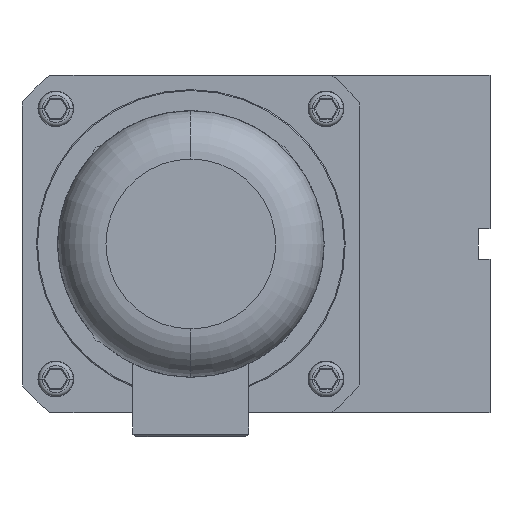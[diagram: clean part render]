
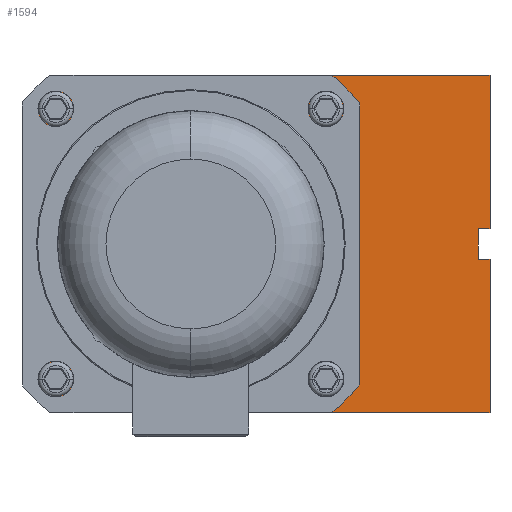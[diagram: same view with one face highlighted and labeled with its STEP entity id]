
A CAD part, front view. The second image highlights one B-rep face of the part: STEP entity #1594.
In plain terms, the highlighted planar face has unit normal (0, -1, 0).
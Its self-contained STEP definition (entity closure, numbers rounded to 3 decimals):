
#2=CARTESIAN_POINT('',(-70.,0.,-70.));
#3=DIRECTION('',(0.,-1.,0.));
#4=DIRECTION('',(0.,0.,1.));
#5=AXIS2_PLACEMENT_3D('',#2,#3,#4);
#7=CARTESIAN_POINT('',(-70.,0.,-70.));
#8=DIRECTION('',(0.,-1.,0.));
#9=DIRECTION('',(0.,0.,-1.));
#10=AXIS2_PLACEMENT_3D('',#7,#8,#9);
#12=CARTESIAN_POINT('',(-70.,0.,70.));
#13=DIRECTION('',(0.,-1.,0.));
#14=DIRECTION('',(0.,0.,1.));
#15=AXIS2_PLACEMENT_3D('',#12,#13,#14);
#17=CARTESIAN_POINT('',(-70.,0.,70.));
#18=DIRECTION('',(0.,-1.,0.));
#19=DIRECTION('',(0.,0.,-1.));
#20=AXIS2_PLACEMENT_3D('',#17,#18,#19);
#22=CARTESIAN_POINT('',(70.,0.,-70.));
#23=DIRECTION('',(0.,-1.,0.));
#24=DIRECTION('',(0.,0.,1.));
#25=AXIS2_PLACEMENT_3D('',#22,#23,#24);
#27=CARTESIAN_POINT('',(70.,0.,-70.));
#28=DIRECTION('',(0.,-1.,0.));
#29=DIRECTION('',(0.,0.,-1.));
#30=AXIS2_PLACEMENT_3D('',#27,#28,#29);
#32=CARTESIAN_POINT('',(70.,0.,70.));
#33=DIRECTION('',(0.,-1.,0.));
#34=DIRECTION('',(0.,0.,1.));
#35=AXIS2_PLACEMENT_3D('',#32,#33,#34);
#37=CARTESIAN_POINT('',(70.,0.,70.));
#38=DIRECTION('',(0.,-1.,0.));
#39=DIRECTION('',(0.,0.,-1.));
#40=AXIS2_PLACEMENT_3D('',#37,#38,#39);
#42=CARTESIAN_POINT('',(0.,0.,0.));
#43=DIRECTION('',(0.,-1.,0.));
#44=DIRECTION('',(1.,0.,0.));
#45=AXIS2_PLACEMENT_3D('',#42,#43,#44);
#47=DIRECTION('',(0.,0.,1.));
#48=VECTOR('',#47,63.267);
#49=CARTESIAN_POINT('',(-85.,0.,9.233));
#50=LINE('',#49,#48);
#51=DIRECTION('',(-0.707,0.,-0.707));
#52=VECTOR('',#51,21.213);
#53=CARTESIAN_POINT('',(-70.,0.,87.5));
#54=LINE('',#53,#52);
#55=DIRECTION('',(1.,0.,0.));
#56=VECTOR('',#55,225.);
#57=CARTESIAN_POINT('',(-70.,0.,87.5));
#58=LINE('',#57,#56);
#59=DIRECTION('',(0.,0.,-1.));
#60=VECTOR('',#59,79.5);
#61=CARTESIAN_POINT('',(155.,0.,87.5));
#62=LINE('',#61,#60);
#63=DIRECTION('',(-1.,0.,0.));
#64=VECTOR('',#63,6.);
#65=CARTESIAN_POINT('',(155.,0.,8.));
#66=LINE('',#65,#64);
#67=DIRECTION('',(0.,0.,1.));
#68=VECTOR('',#67,16.);
#69=CARTESIAN_POINT('',(149.,0.,-8.));
#70=LINE('',#69,#68);
#71=DIRECTION('',(-1.,0.,0.));
#72=VECTOR('',#71,6.);
#73=CARTESIAN_POINT('',(155.,0.,-8.));
#74=LINE('',#73,#72);
#75=DIRECTION('',(0.,0.,-1.));
#76=VECTOR('',#75,79.5);
#77=CARTESIAN_POINT('',(155.,0.,-8.));
#78=LINE('',#77,#76);
#79=DIRECTION('',(-1.,0.,0.));
#80=VECTOR('',#79,225.);
#81=CARTESIAN_POINT('',(155.,0.,-87.5));
#82=LINE('',#81,#80);
#83=DIRECTION('',(0.707,0.,-0.707));
#84=VECTOR('',#83,21.213);
#85=CARTESIAN_POINT('',(-85.,0.,-72.5));
#86=LINE('',#85,#84);
#87=DIRECTION('',(0.,0.,1.));
#88=VECTOR('',#87,63.267);
#89=CARTESIAN_POINT('',(-85.,0.,-72.5));
#90=LINE('',#89,#88);
#91=CARTESIAN_POINT('',(0.,0.,0.));
#92=DIRECTION('',(0.,-1.,0.));
#93=DIRECTION('',(-0.994,0.,-0.108));
#94=AXIS2_PLACEMENT_3D('',#91,#92,#93);
#1259=CARTESIAN_POINT('',(155.,0.,-87.5));
#1260=VERTEX_POINT('',#1259);
#1261=CARTESIAN_POINT('',(155.,0.,87.5));
#1262=VERTEX_POINT('',#1261);
#1263=CARTESIAN_POINT('',(-85.,0.,-72.5));
#1264=CARTESIAN_POINT('',(-70.,0.,-87.5));
#1265=VERTEX_POINT('',#1263);
#1266=VERTEX_POINT('',#1264);
#1271=CARTESIAN_POINT('',(-70.,0.,87.5));
#1272=CARTESIAN_POINT('',(-85.,0.,72.5));
#1273=VERTEX_POINT('',#1271);
#1274=VERTEX_POINT('',#1272);
#1295=CARTESIAN_POINT('',(149.,0.,-8.));
#1296=CARTESIAN_POINT('',(149.,0.,8.));
#1297=VERTEX_POINT('',#1295);
#1298=VERTEX_POINT('',#1296);
#1299=CARTESIAN_POINT('',(155.,0.,-8.));
#1300=VERTEX_POINT('',#1299);
#1301=CARTESIAN_POINT('',(155.,0.,8.));
#1302=VERTEX_POINT('',#1301);
#1311=CARTESIAN_POINT('',(-70.,0.,-67.));
#1312=CARTESIAN_POINT('',(-70.,0.,-73.));
#1313=VERTEX_POINT('',#1311);
#1314=VERTEX_POINT('',#1312);
#1319=CARTESIAN_POINT('',(-70.,0.,73.));
#1320=CARTESIAN_POINT('',(-70.,0.,67.));
#1321=VERTEX_POINT('',#1319);
#1322=VERTEX_POINT('',#1320);
#1327=CARTESIAN_POINT('',(70.,0.,-67.));
#1328=CARTESIAN_POINT('',(70.,0.,-73.));
#1329=VERTEX_POINT('',#1327);
#1330=VERTEX_POINT('',#1328);
#1335=CARTESIAN_POINT('',(70.,0.,73.));
#1336=CARTESIAN_POINT('',(70.,0.,67.));
#1337=VERTEX_POINT('',#1335);
#1338=VERTEX_POINT('',#1336);
#1411=CARTESIAN_POINT('',(85.5,0.,0.));
#1412=CARTESIAN_POINT('',(-85.,0.,9.233));
#1413=VERTEX_POINT('',#1411);
#1414=VERTEX_POINT('',#1412);
#1415=CARTESIAN_POINT('',(-85.,0.,-9.233));
#1416=VERTEX_POINT('',#1415);
#1537=CARTESIAN_POINT('',(0.,0.,0.));
#1538=DIRECTION('',(0.,1.,0.));
#1539=DIRECTION('',(1.,0.,0.));
#1540=AXIS2_PLACEMENT_3D('',#1537,#1538,#1539);
#1541=PLANE('',#1540);
#1543=ORIENTED_EDGE('',*,*,#1542,.T.);
#1545=ORIENTED_EDGE('',*,*,#1544,.T.);
#1547=ORIENTED_EDGE('',*,*,#1546,.F.);
#1549=ORIENTED_EDGE('',*,*,#1548,.T.);
#1551=ORIENTED_EDGE('',*,*,#1550,.T.);
#1553=ORIENTED_EDGE('',*,*,#1552,.T.);
#1555=ORIENTED_EDGE('',*,*,#1554,.F.);
#1557=ORIENTED_EDGE('',*,*,#1556,.F.);
#1559=ORIENTED_EDGE('',*,*,#1558,.T.);
#1561=ORIENTED_EDGE('',*,*,#1560,.T.);
#1563=ORIENTED_EDGE('',*,*,#1562,.F.);
#1565=ORIENTED_EDGE('',*,*,#1564,.T.);
#1567=ORIENTED_EDGE('',*,*,#1566,.T.);
#1568=EDGE_LOOP('',(#1543,#1545,#1547,#1549,#1551,#1553,#1555,#1557,#1559,#1561,
#1563,#1565,#1567));
#1569=FACE_OUTER_BOUND('',#1568,.F.);
#1571=ORIENTED_EDGE('',*,*,#1570,.T.);
#1573=ORIENTED_EDGE('',*,*,#1572,.T.);
#1574=EDGE_LOOP('',(#1571,#1573));
#1575=FACE_BOUND('',#1574,.F.);
#1577=ORIENTED_EDGE('',*,*,#1576,.T.);
#1579=ORIENTED_EDGE('',*,*,#1578,.T.);
#1580=EDGE_LOOP('',(#1577,#1579));
#1581=FACE_BOUND('',#1580,.F.);
#1583=ORIENTED_EDGE('',*,*,#1582,.T.);
#1585=ORIENTED_EDGE('',*,*,#1584,.T.);
#1586=EDGE_LOOP('',(#1583,#1585));
#1587=FACE_BOUND('',#1586,.F.);
#1589=ORIENTED_EDGE('',*,*,#1588,.T.);
#1591=ORIENTED_EDGE('',*,*,#1590,.T.);
#1592=EDGE_LOOP('',(#1589,#1591));
#1593=FACE_BOUND('',#1592,.F.);
#1594=ADVANCED_FACE('',(#1569,#1575,#1581,#1587,#1593),#1541,.F.);
#6=CIRCLE('',#5,3.);
#11=CIRCLE('',#10,3.);
#16=CIRCLE('',#15,3.);
#21=CIRCLE('',#20,3.);
#26=CIRCLE('',#25,3.);
#31=CIRCLE('',#30,3.);
#36=CIRCLE('',#35,3.);
#41=CIRCLE('',#40,3.);
#46=CIRCLE('',#45,85.5);
#95=CIRCLE('',#94,85.5);
#1542=EDGE_CURVE('',#1413,#1414,#46,.T.);
#1544=EDGE_CURVE('',#1414,#1274,#50,.T.);
#1546=EDGE_CURVE('',#1273,#1274,#54,.T.);
#1548=EDGE_CURVE('',#1273,#1262,#58,.T.);
#1550=EDGE_CURVE('',#1262,#1302,#62,.T.);
#1552=EDGE_CURVE('',#1302,#1298,#66,.T.);
#1554=EDGE_CURVE('',#1297,#1298,#70,.T.);
#1556=EDGE_CURVE('',#1300,#1297,#74,.T.);
#1558=EDGE_CURVE('',#1300,#1260,#78,.T.);
#1560=EDGE_CURVE('',#1260,#1266,#82,.T.);
#1562=EDGE_CURVE('',#1265,#1266,#86,.T.);
#1564=EDGE_CURVE('',#1265,#1416,#90,.T.);
#1566=EDGE_CURVE('',#1416,#1413,#95,.T.);
#1570=EDGE_CURVE('',#1313,#1314,#6,.T.);
#1572=EDGE_CURVE('',#1314,#1313,#11,.T.);
#1576=EDGE_CURVE('',#1321,#1322,#16,.T.);
#1578=EDGE_CURVE('',#1322,#1321,#21,.T.);
#1582=EDGE_CURVE('',#1329,#1330,#26,.T.);
#1584=EDGE_CURVE('',#1330,#1329,#31,.T.);
#1588=EDGE_CURVE('',#1337,#1338,#36,.T.);
#1590=EDGE_CURVE('',#1338,#1337,#41,.T.);
